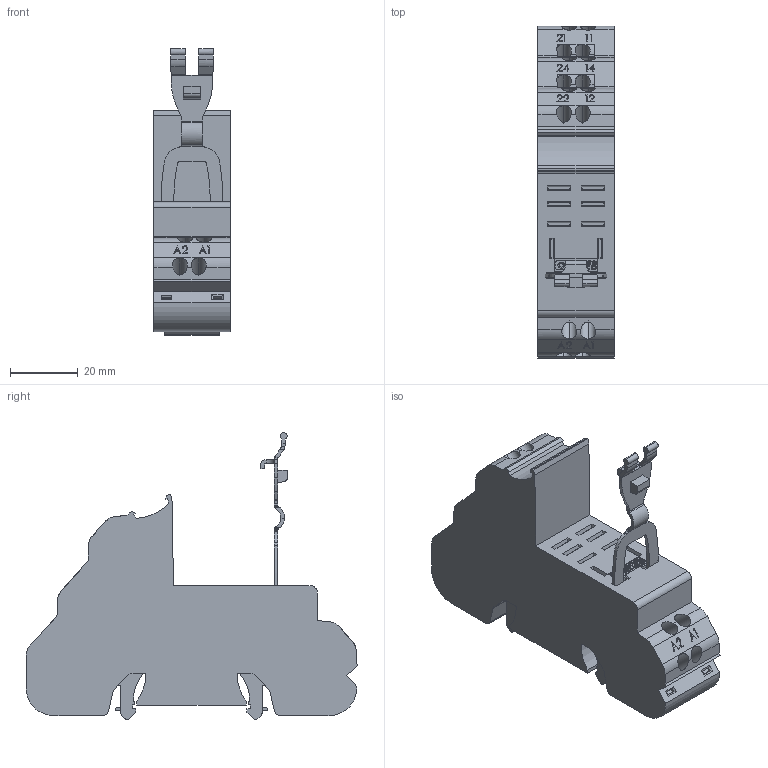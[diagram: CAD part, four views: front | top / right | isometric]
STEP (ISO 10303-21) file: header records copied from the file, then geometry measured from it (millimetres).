
FILE_DESCRIPTION (( 'STEP AP214' ), '1' );
FILE_NAME ('S7-PIR.STEP', '2024-04-09T10:40:04', ( '' ), ( '' ), 'SwSTEP 2.0', 'SolidWorks 2022', '' );
FILE_SCHEMA (( 'AUTOMOTIVE_DESIGN' ));
Length unit declared in the file: millimetre
Products named in the file (1): S7-PIR
Bounding box: 22.5 x 97.75 x 84.43 mm (x, y, z)
Volume: 80702.5 mm3; surface area: 20134.6 mm2
Topology: 1 solids, 1 shells, 742 faces, 2030 edges, 1342 vertices
Faces by surface type: plane 485, bspline 145, cylinder 112
Entity records: 33170 total; most frequent: CARTESIAN_POINT 9156, ORIENTED_EDGE 4060, DIRECTION 2994, EDGE_CURVE 2030, LINE 1474, VECTOR 1474, VERTEX_POINT 1342, EDGE_LOOP 796
